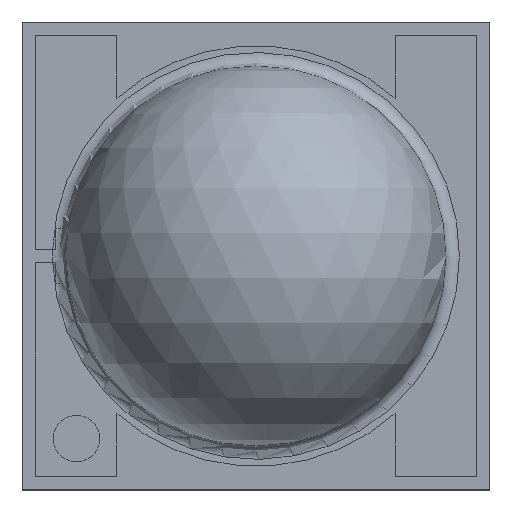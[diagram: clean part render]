
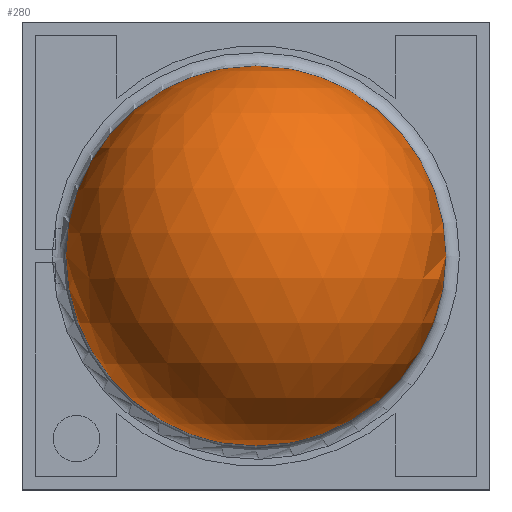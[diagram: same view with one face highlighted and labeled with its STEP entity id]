
A CAD part, top view. The second image highlights one B-rep face of the part: STEP entity #280.
In plain terms, the highlighted spherical face has radius 1.4 mm.
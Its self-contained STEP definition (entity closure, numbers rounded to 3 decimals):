
#280 = ADVANCED_FACE( '', ( #757 ), #758, .T. );
#453 = EDGE_CURVE( '', #1003, #1003, #1004, .T. );
#757 = FACE_OUTER_BOUND( '', #1385, .T. );
#758 = SPHERICAL_SURFACE( '', #1386, 1.4 );
#1003 = VERTEX_POINT( '', #1749 );
#1004 = CIRCLE( '', #1750, 1.4 );
#1385 = EDGE_LOOP( '', ( #2135 ) );
#1386 = AXIS2_PLACEMENT_3D( '', #2136, #2137, #2138 );
#1749 = CARTESIAN_POINT( '', ( -1.4, 0., 1.001 ) );
#1750 = AXIS2_PLACEMENT_3D( '', #2449, #2450, #2451 );
#2135 = ORIENTED_EDGE( '', *, *, #453, .F. );
#2136 = CARTESIAN_POINT( '', ( 0., 0., 1.001 ) );
#2137 = DIRECTION( '', ( 0., 1., 0. ) );
#2138 = DIRECTION( '', ( 1., 0., 0. ) );
#2449 = CARTESIAN_POINT( '', ( 0., 0., 1.001 ) );
#2450 = DIRECTION( '', ( 0., 0., -1. ) );
#2451 = DIRECTION( '', ( -1., 0., 0. ) );
